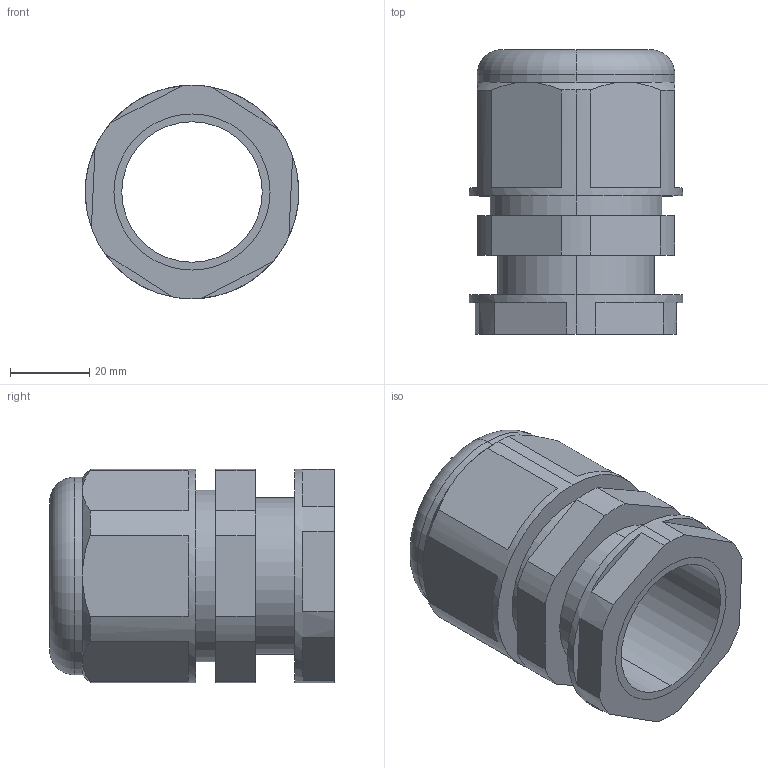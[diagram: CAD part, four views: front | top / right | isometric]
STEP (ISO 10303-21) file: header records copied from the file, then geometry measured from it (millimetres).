
FILE_DESCRIPTION (( 'STEP AP214' ), '1' );
FILE_NAME ('Ñàëüíèê MG40-(D ïðîâîäíèêà 20-29 ìì)-IP68.STEP', '2023-02-20T06:35:04', ( '' ), ( '' ), 'SwSTEP 2.0', 'SolidWorks 2018', '' );
FILE_SCHEMA (( 'AUTOMOTIVE_DESIGN' ));
Length unit declared in the file: millimetre
Products named in the file (3): Ñàëüíèê MG40-(D ïðîâîäíèêà 20-29 ìì)-IP68 äåòàëü; Ñàëüíèê MG40-(D ïðîâîäíèêà 20-29 ìì)-IP68; Ñàëüíèê MG40-(D ïðîâîäíèêà 20-29 ìì)-IP68 ãàéêà
Assembly tree (2 placements, depth 2):
  Ñàëüíèê MG40-(D ïðîâîäíèêà 20-29 ìì)-IP68
    Ñàëüíèê MG40-(D ïðîâîäíèêà 20-29 ìì)-IP68 äåòàëü
    Ñàëüíèê MG40-(D ïðîâîäíèêà 20-29 ìì)-IP68 ãàéêà
Bounding box: 54 x 72 x 54 mm (x, y, z)
Volume: 67533.2 mm3; surface area: 27329.8 mm2
Topology: 2 solids, 2 shells, 67 faces, 170 edges, 110 vertices
Faces by surface type: plane 37, cylinder 21, cone 7, torus 2
Entity records: 2222 total; most frequent: CARTESIAN_POINT 440, DIRECTION 378, ORIENTED_EDGE 340, EDGE_CURVE 170, AXIS2_PLACEMENT_3D 148, VERTEX_POINT 110, VECTOR 82, LINE 82
